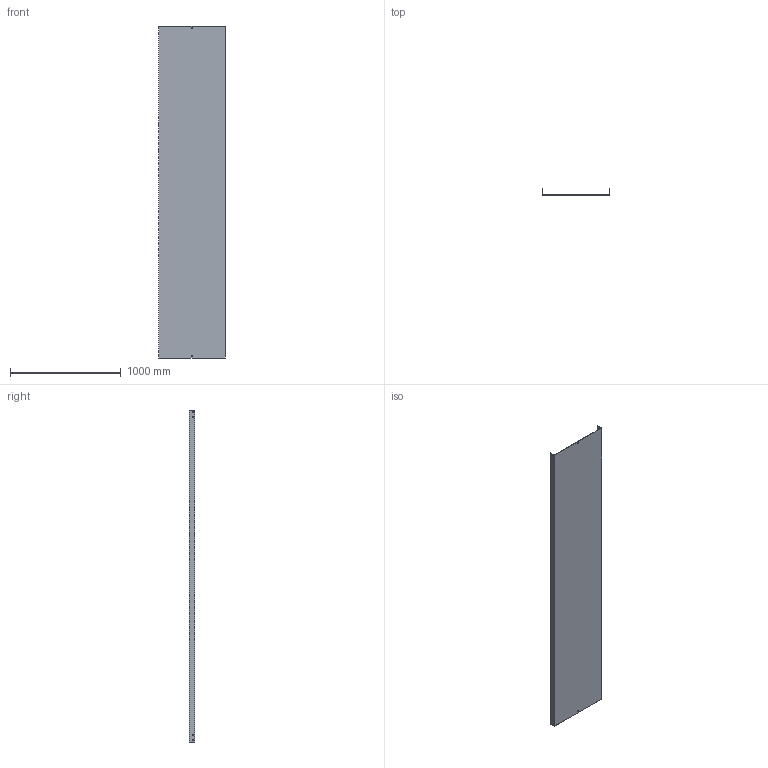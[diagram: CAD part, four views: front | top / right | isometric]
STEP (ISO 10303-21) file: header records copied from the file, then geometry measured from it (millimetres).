
FILE_DESCRIPTION (( 'STEP AP214' ), '1' );
FILE_NAME ('03B3B600.step', '2025-02-21T10:13:48', ( '' ), ( '' ), 'SwSTEP 2.0', 'SolidWorks 2023', '' );
FILE_SCHEMA (( 'AUTOMOTIVE_DESIGN' ));
Length unit declared in the file: millimetre
Products named in the file (1): 03B3B600
Bounding box: 604 x 52 x 3000 mm (x, y, z)
Volume: 7358130.5 mm3; surface area: 4231722 mm2
Topology: 1 solids, 1 shells, 50 faces, 144 edges, 96 vertices
Faces by surface type: plane 50
Entity records: 1671 total; most frequent: CARTESIAN_POINT 291, ORIENTED_EDGE 288, DIRECTION 246, LINE 144, EDGE_CURVE 144, VECTOR 144, VERTEX_POINT 96, EDGE_LOOP 70
